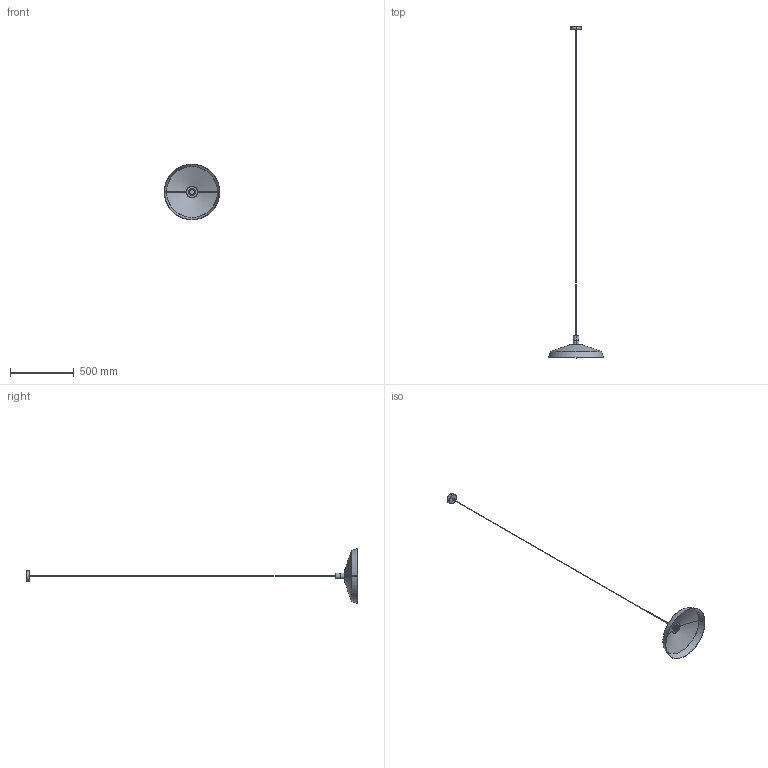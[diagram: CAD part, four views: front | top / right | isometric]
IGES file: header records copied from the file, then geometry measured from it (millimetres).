
Start section: SolidWorks IGES file using analytic representation for surfaces
Global section: file name: C:\Users\danielet\Desktop\3D ANDONI\CATALOGO DECO\EVELYN-C3906-3D\EVELYN-C3906-3D.IGS; native system: SolidWorks 2018; preprocessor: SolidWorks 2018; author: danielet; date: 210120.095453; units: millimetre
Bounding box: 435 x 2606.5 x 435 mm (x, y, z)
Surface area: 485996.9 mm2 (no closed solid volume)
Topology: 0 solids, 0 shells, 56 faces, 1824 edges, 1824 vertices
Faces by surface type: revolution 34, bspline 22
